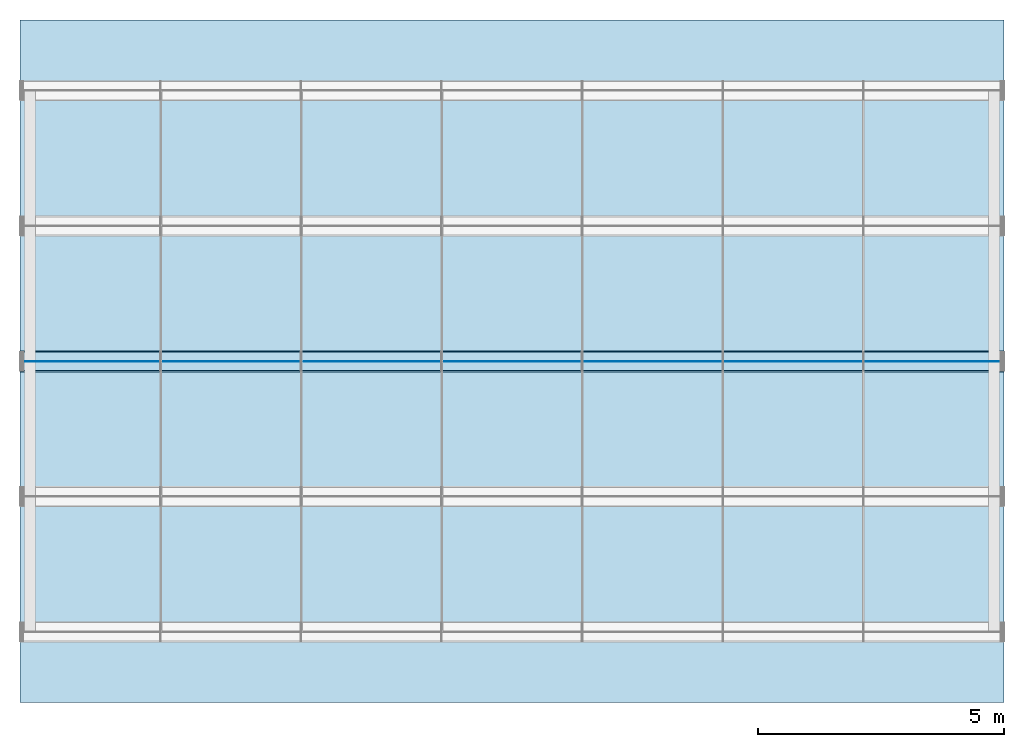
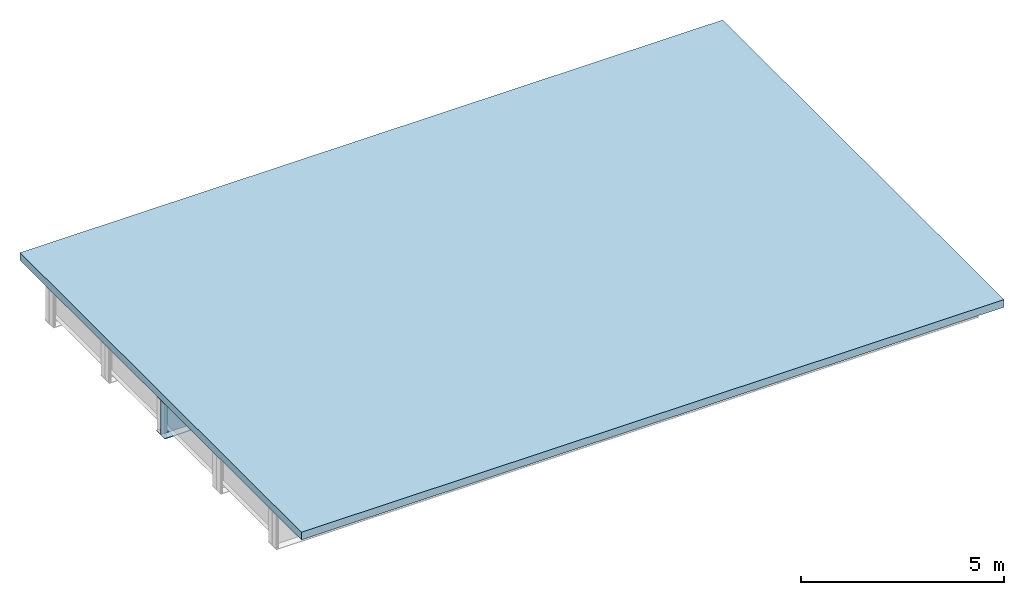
# One storey, part 7 of 12: 3 plates, 1 slab.
"""IFC4 building model written with IfcOpenShell, lengths in metres."""

from ifc_helpers import new_model, si_unit, frame, origin, origin_with_axes, origin_2d_with_axis, place, context, subcontext, project, spatial, polyline, rectangle, outline, extrude, element, save


model = new_model("IFC4")

# Units and contexts
model_context = context("Model", 3, precision=1e-05, world=origin())
body_context = subcontext(model_context, "Body", "Model", "MODEL_VIEW")
ifc_project = project(units=[si_unit("LENGTHUNIT", "METRE"), si_unit("AREAUNIT", "SQUARE_METRE"), si_unit("VOLUMEUNIT", "CUBIC_METRE"), si_unit("PLANEANGLEUNIT", "RADIAN")], contexts=[model_context])

# Site, building, storey
site_placement = place(None, origin_with_axes())
site = spatial("IfcSite", under=ifc_project, at=site_placement, Name="Default Site")
building_placement = place(site_placement, origin_with_axes())
building = spatial("IfcBuilding", under=site, at=building_placement, Name="Bridge Structure")
storey_placement = place(building_placement, origin_with_axes())
storey = spatial("IfcBuildingStorey", under=building, at=storey_placement, Name="Superstructure")

# Plates
plate_1_placement = place(storey_placement, frame((0.0, 0.0, 0.0), z_axis=(1.0, 0.0, 0.0), x_axis=(0.0, 1.0, 0.0)))
element("IfcPlate", 1, at=plate_1_placement, inside=storey, Name="Girder Web 3", context=body_context, shape_type="SweptSolid", body=[
    extrude(rectangle(XDim=0.01, YDim=1.014, at=origin_2d_with_axis()), origin_with_axes(), (0.0, 0.0, 1.0), 20.0),
])
plate_2_placement = place(storey_placement, frame((0.0, 0.0, 0.515), z_axis=(1.0, 0.0, 0.0), x_axis=(0.0, 1.0, 0.0)))
element("IfcPlate", 2, at=plate_2_placement, inside=storey, Name="Top Flange 3", context=body_context, shape_type="SweptSolid", body=[
    extrude(rectangle(XDim=0.375, YDim=0.016, at=origin_2d_with_axis()), origin_with_axes(), (0.0, 0.0, 1.0), 20.0),
])
plate_3_placement = place(storey_placement, frame((0.0, 0.0, -0.517), z_axis=(1.0, 0.0, 0.0), x_axis=(0.0, 1.0, 0.0)))
element("IfcPlate", 3, at=plate_3_placement, inside=storey, Name="Bottom Flange 3", context=body_context, shape_type="SweptSolid", body=[
    extrude(rectangle(XDim=0.425, YDim=0.02, at=origin_2d_with_axis()), origin_with_axes(), (0.0, 0.0, 1.0), 20.0),
])

# Slab
slab_placement = place(storey_placement, frame((0.0, 0.0, 0.523), z_axis=(0.0, 0.0, 1.0), x_axis=(1.0, 0.0, 0.0)))
element("IfcSlab", 4, at=slab_placement, inside=storey, Name="Deck Slab", context=body_context, shape_type="SweptSolid", body=[
    extrude(outline(polyline([(0.0, -6.9375), (20.0, -6.9375), (20.0, 6.9375), (0.0, 6.9375), (0.0, -6.9375)])), origin_with_axes(), (0.0, 0.0, 1.0), 0.23),
])

save(model, "model.ifc")
